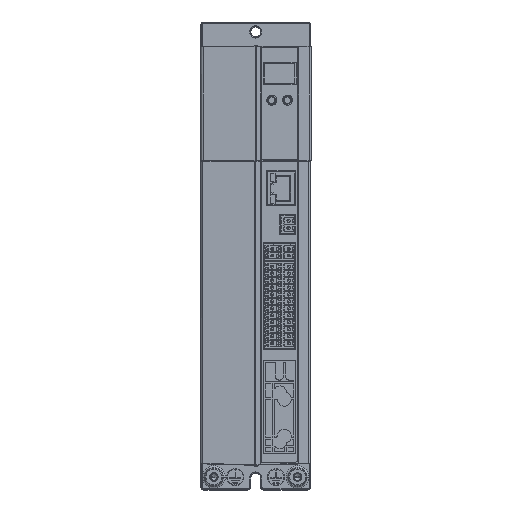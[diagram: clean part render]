
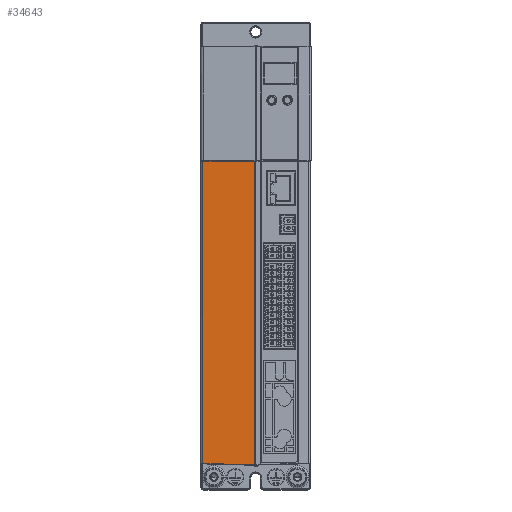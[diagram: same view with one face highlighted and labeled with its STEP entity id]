
A CAD part, top view. The second image highlights one B-rep face of the part: STEP entity #34643.
In plain terms, the highlighted planar face has unit normal (-0.026, 0, 1).
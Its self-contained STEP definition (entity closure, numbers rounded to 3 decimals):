
#30228=PLANE('',#139663);
#34643=ADVANCED_FACE('',(#40938),#30228,.T.);
#40938=FACE_OUTER_BOUND('',#46996,.T.);
#46996=EDGE_LOOP('',(#79292,#79293,#79294,#79295));
#53888=LINE('',#177473,#66578);
#53889=LINE('',#177475,#66579);
#53890=LINE('',#177477,#66580);
#53891=LINE('',#177479,#66581);
#66578=VECTOR('',#148142,1.);
#66579=VECTOR('',#148145,1.);
#66580=VECTOR('',#148146,1.);
#66581=VECTOR('',#148147,1.);
#79292=ORIENTED_EDGE('',*,*,#121425,.T.);
#79293=ORIENTED_EDGE('',*,*,#121424,.T.);
#79294=ORIENTED_EDGE('',*,*,#121426,.T.);
#79295=ORIENTED_EDGE('',*,*,#121427,.T.);
#111188=VERTEX_POINT('',#177454);
#111196=VERTEX_POINT('',#177472);
#111197=VERTEX_POINT('',#177476);
#111198=VERTEX_POINT('',#177478);
#121424=EDGE_CURVE('',#111188,#111196,#53888,.T.);
#121425=EDGE_CURVE('',#111197,#111188,#53889,.T.);
#121426=EDGE_CURVE('',#111196,#111198,#53890,.T.);
#121427=EDGE_CURVE('',#111198,#111197,#53891,.T.);
#139663=AXIS2_PLACEMENT_3D('',#177480,#148148,#148149);
#148142=DIRECTION('',(-1.,0.001,-0.026));
#148145=DIRECTION('',(0.,1.,0.));
#148146=DIRECTION('',(0.,-1.,0.));
#148147=DIRECTION('',(0.999,-0.026,0.026));
#148148=DIRECTION('',(-0.026,0.,1.));
#148149=DIRECTION('',(1.,0.,0.026));
#177454=CARTESIAN_POINT('',(13.422,55.675,120.183));
#177472=CARTESIAN_POINT('',(-12.604,55.693,119.502));
#177473=CARTESIAN_POINT('',(13.883,55.675,120.195));
#177475=CARTESIAN_POINT('',(13.422,113.306,120.183));
#177476=CARTESIAN_POINT('',(13.422,-96.681,120.183));
#177477=CARTESIAN_POINT('',(-12.604,-95.974,119.502));
#177478=CARTESIAN_POINT('',(-12.604,-96.,119.502));
#177479=CARTESIAN_POINT('',(8.431,-96.55,120.053));
#177480=CARTESIAN_POINT('',(13.922,113.306,120.196));
